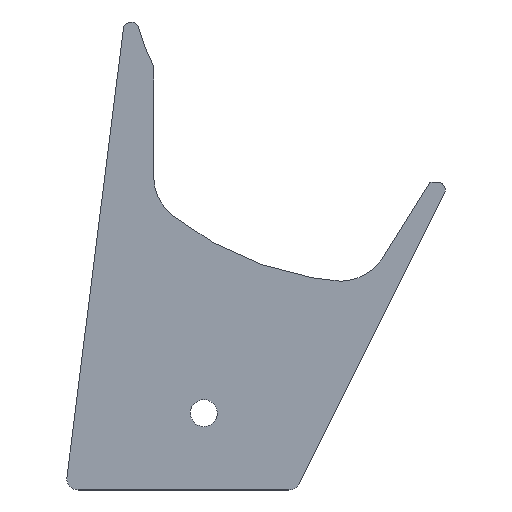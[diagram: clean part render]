
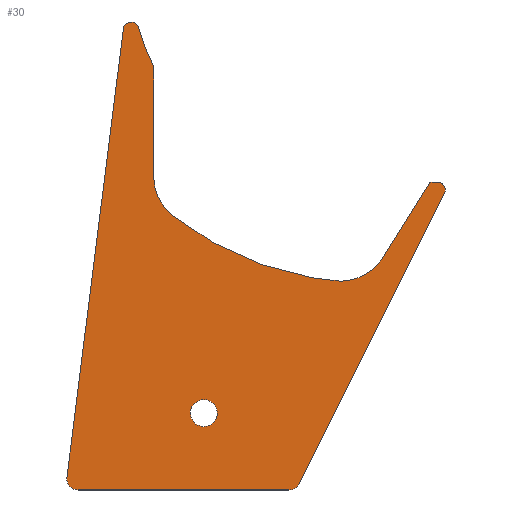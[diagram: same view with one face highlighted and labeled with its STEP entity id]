
A CAD part, top view. The second image highlights one B-rep face of the part: STEP entity #30.
In plain terms, the highlighted planar face has unit normal (0, 0, 1).
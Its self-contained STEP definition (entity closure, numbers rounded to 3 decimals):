
#15=FACE_BOUND('',#64,.T.);
#30=ADVANCED_FACE('',(#46,#15),#263,.T.);
#46=FACE_OUTER_BOUND('',#63,.T.);
#63=EDGE_LOOP('',(#132,#133,#134,#135,#136,#137,#138,#139,#140,#141,#142,
#143));
#64=EDGE_LOOP('',(#144,#145));
#132=ORIENTED_EDGE('',*,*,#152,.T.);
#133=ORIENTED_EDGE('',*,*,#156,.T.);
#134=ORIENTED_EDGE('',*,*,#159,.T.);
#135=ORIENTED_EDGE('',*,*,#162,.T.);
#136=ORIENTED_EDGE('',*,*,#165,.T.);
#137=ORIENTED_EDGE('',*,*,#168,.T.);
#138=ORIENTED_EDGE('',*,*,#171,.T.);
#139=ORIENTED_EDGE('',*,*,#174,.T.);
#140=ORIENTED_EDGE('',*,*,#177,.T.);
#141=ORIENTED_EDGE('',*,*,#180,.T.);
#142=ORIENTED_EDGE('',*,*,#183,.T.);
#143=ORIENTED_EDGE('',*,*,#185,.T.);
#144=ORIENTED_EDGE('',*,*,#188,.T.);
#145=ORIENTED_EDGE('',*,*,#191,.T.);
#152=EDGE_CURVE('',#237,#236,#194,.T.);
#156=EDGE_CURVE('',#236,#239,#198,.T.);
#159=EDGE_CURVE('',#239,#241,#201,.T.);
#162=EDGE_CURVE('',#241,#243,#204,.T.);
#165=EDGE_CURVE('',#243,#245,#207,.T.);
#168=EDGE_CURVE('',#245,#247,#210,.T.);
#171=EDGE_CURVE('',#247,#249,#213,.T.);
#174=EDGE_CURVE('',#249,#251,#216,.T.);
#177=EDGE_CURVE('',#251,#253,#219,.T.);
#180=EDGE_CURVE('',#253,#255,#222,.T.);
#183=EDGE_CURVE('',#255,#257,#225,.T.);
#185=EDGE_CURVE('',#257,#237,#227,.T.);
#188=EDGE_CURVE('',#259,#261,#230,.T.);
#191=EDGE_CURVE('',#261,#259,#233,.T.);
#194=(
BOUNDED_CURVE()
B_SPLINE_CURVE(2,(#517,#518,#519,#520,#521),.UNSPECIFIED.,.F.,.F.)
B_SPLINE_CURVE_WITH_KNOTS((3,2,3),(140.336,141.709,143.081),
 .UNSPECIFIED.)
CURVE()
GEOMETRIC_REPRESENTATION_ITEM()
RATIONAL_B_SPLINE_CURVE((1.,0.774,1.,0.774,1.))
REPRESENTATION_ITEM('')
);
#198=(
BOUNDED_CURVE()
B_SPLINE_CURVE(2,(#529,#530,#531),.UNSPECIFIED.,.F.,.F.)
B_SPLINE_CURVE_WITH_KNOTS((3,3),(143.081,201.832),
 .UNSPECIFIED.)
CURVE()
GEOMETRIC_REPRESENTATION_ITEM()
RATIONAL_B_SPLINE_CURVE((1.,1.,1.))
REPRESENTATION_ITEM('')
);
#201=(
BOUNDED_CURVE()
B_SPLINE_CURVE(2,(#537,#538,#539),.UNSPECIFIED.,.F.,.F.)
B_SPLINE_CURVE_WITH_KNOTS((3,3),(201.832,204.376),
 .UNSPECIFIED.)
CURVE()
GEOMETRIC_REPRESENTATION_ITEM()
RATIONAL_B_SPLINE_CURVE((1.,0.661,1.))
REPRESENTATION_ITEM('')
);
#204=(
BOUNDED_CURVE()
B_SPLINE_CURVE(2,(#545,#546,#547),.UNSPECIFIED.,.F.,.F.)
B_SPLINE_CURVE_WITH_KNOTS((3,3),(204.376,231.748),
 .UNSPECIFIED.)
CURVE()
GEOMETRIC_REPRESENTATION_ITEM()
RATIONAL_B_SPLINE_CURVE((1.,1.,1.))
REPRESENTATION_ITEM('')
);
#207=(
BOUNDED_CURVE()
B_SPLINE_CURVE(2,(#553,#554,#555),.UNSPECIFIED.,.F.,.F.)
B_SPLINE_CURVE_WITH_KNOTS((3,3),(231.748,233.409),
 .UNSPECIFIED.)
CURVE()
GEOMETRIC_REPRESENTATION_ITEM()
RATIONAL_B_SPLINE_CURVE((1.,0.851,1.))
REPRESENTATION_ITEM('')
);
#210=(
BOUNDED_CURVE()
B_SPLINE_CURVE(2,(#561,#562,#563),.UNSPECIFIED.,.F.,.F.)
B_SPLINE_CURVE_WITH_KNOTS((3,3),(233.409,275.585),
 .UNSPECIFIED.)
CURVE()
GEOMETRIC_REPRESENTATION_ITEM()
RATIONAL_B_SPLINE_CURVE((1.,1.,1.))
REPRESENTATION_ITEM('')
);
#213=(
BOUNDED_CURVE()
B_SPLINE_CURVE(2,(#569,#570,#571),.UNSPECIFIED.,.F.,.F.)
B_SPLINE_CURVE_WITH_KNOTS((3,3),(275.585,277.62),
 .UNSPECIFIED.)
CURVE()
GEOMETRIC_REPRESENTATION_ITEM()
RATIONAL_B_SPLINE_CURVE((1.,0.526,1.))
REPRESENTATION_ITEM('')
);
#216=(
BOUNDED_CURVE()
B_SPLINE_CURVE(2,(#577,#578,#579),.UNSPECIFIED.,.F.,.F.)
B_SPLINE_CURVE_WITH_KNOTS((3,3),(277.62,278.6),
 .UNSPECIFIED.)
CURVE()
GEOMETRIC_REPRESENTATION_ITEM()
RATIONAL_B_SPLINE_CURVE((1.,1.,1.))
REPRESENTATION_ITEM('')
);
#219=(
BOUNDED_CURVE()
B_SPLINE_CURVE(2,(#585,#586,#587),.UNSPECIFIED.,.F.,.F.)
B_SPLINE_CURVE_WITH_KNOTS((3,3),(278.6,291.618),
 .UNSPECIFIED.)
CURVE()
GEOMETRIC_REPRESENTATION_ITEM()
RATIONAL_B_SPLINE_CURVE((1.,1.,1.))
REPRESENTATION_ITEM('')
);
#222=(
BOUNDED_CURVE()
B_SPLINE_CURVE(2,(#597,#598,#599,#600,#601,#602,#603),.UNSPECIFIED.,.F.,
 .F.)
B_SPLINE_CURVE_WITH_KNOTS((3,2,2,3),(291.618,306.378,
313.985,326.05),.UNSPECIFIED.)
CURVE()
GEOMETRIC_REPRESENTATION_ITEM()
RATIONAL_B_SPLINE_CURVE((1.,0.851,1.,0.96,1.,0.899,
1.))
REPRESENTATION_ITEM('')
);
#225=(
BOUNDED_CURVE()
B_SPLINE_CURVE(2,(#609,#610,#611),.UNSPECIFIED.,.F.,.F.)
B_SPLINE_CURVE_WITH_KNOTS((3,3),(326.05,339.268),
 .UNSPECIFIED.)
CURVE()
GEOMETRIC_REPRESENTATION_ITEM()
RATIONAL_B_SPLINE_CURVE((1.,1.,1.))
REPRESENTATION_ITEM('')
);
#227=(
BOUNDED_CURVE()
B_SPLINE_CURVE(2,(#615,#616,#617),.UNSPECIFIED.,.F.,.F.)
B_SPLINE_CURVE_WITH_KNOTS((3,3),(339.268,344.712),
 .UNSPECIFIED.)
CURVE()
GEOMETRIC_REPRESENTATION_ITEM()
RATIONAL_B_SPLINE_CURVE((1.,0.995,1.))
REPRESENTATION_ITEM('')
);
#230=(
BOUNDED_CURVE()
B_SPLINE_CURVE(2,(#625,#626,#627,#628,#629),.UNSPECIFIED.,.F.,.F.)
B_SPLINE_CURVE_WITH_KNOTS((3,2,3),(344.712,347.461,350.21),
 .UNSPECIFIED.)
CURVE()
GEOMETRIC_REPRESENTATION_ITEM()
RATIONAL_B_SPLINE_CURVE((1.,0.707,1.,0.707,1.))
REPRESENTATION_ITEM('')
);
#233=(
BOUNDED_CURVE()
B_SPLINE_CURVE(2,(#637,#638,#639,#640,#641),.UNSPECIFIED.,.F.,.F.)
B_SPLINE_CURVE_WITH_KNOTS((3,2,3),(350.21,352.959,355.708),
 .UNSPECIFIED.)
CURVE()
GEOMETRIC_REPRESENTATION_ITEM()
RATIONAL_B_SPLINE_CURVE((1.,0.707,1.,0.707,1.))
REPRESENTATION_ITEM('')
);
#236=VERTEX_POINT('',#484);
#237=VERTEX_POINT('',#485);
#239=VERTEX_POINT('',#487);
#241=VERTEX_POINT('',#489);
#243=VERTEX_POINT('',#491);
#245=VERTEX_POINT('',#493);
#247=VERTEX_POINT('',#495);
#249=VERTEX_POINT('',#497);
#251=VERTEX_POINT('',#499);
#253=VERTEX_POINT('',#501);
#255=VERTEX_POINT('',#503);
#257=VERTEX_POINT('',#505);
#259=VERTEX_POINT('',#507);
#261=VERTEX_POINT('',#509);
#263=PLANE('',#367);
#367=AXIS2_PLACEMENT_3D('',#471,#372,$);
#372=DIRECTION('',(0.,0.,1.));
#471=CARTESIAN_POINT('',(-89.947,-75.107,0.5));
#484=CARTESIAN_POINT('',(-76.447,-7.522,0.5));
#485=CARTESIAN_POINT('',(-74.492,-7.378,0.5));
#487=CARTESIAN_POINT('',(-83.788,-65.813,0.5));
#489=CARTESIAN_POINT('',(-82.299,-67.5,0.5));
#491=CARTESIAN_POINT('',(-54.927,-67.5,0.5));
#493=CARTESIAN_POINT('',(-53.585,-66.671,0.5));
#495=CARTESIAN_POINT('',(-34.724,-28.947,0.5));
#497=CARTESIAN_POINT('',(-35.618,-27.5,0.5));
#499=CARTESIAN_POINT('',(-36.598,-27.5,0.5));
#501=CARTESIAN_POINT('',(-42.717,-37.291,0.5));
#503=CARTESIAN_POINT('',(-72.5,-26.739,0.5));
#505=CARTESIAN_POINT('',(-72.5,-12.49,0.5));
#507=CARTESIAN_POINT('',(-64.25,-57.5,0.5));
#509=CARTESIAN_POINT('',(-67.75,-57.5,0.5));
#517=CARTESIAN_POINT('',(-74.492,-7.378,0.5));
#518=CARTESIAN_POINT('',(-74.711,-6.589,0.5));
#519=CARTESIAN_POINT('',(-75.528,-6.649,0.5));
#520=CARTESIAN_POINT('',(-76.345,-6.709,0.5));
#521=CARTESIAN_POINT('',(-76.447,-7.522,0.5));
#529=CARTESIAN_POINT('',(-76.447,-7.522,0.5));
#530=CARTESIAN_POINT('',(-80.117,-36.667,0.5));
#531=CARTESIAN_POINT('',(-83.788,-65.813,0.5));
#537=CARTESIAN_POINT('',(-83.788,-65.813,0.5));
#538=CARTESIAN_POINT('',(-84.,-67.5,0.5));
#539=CARTESIAN_POINT('',(-82.299,-67.5,0.5));
#545=CARTESIAN_POINT('',(-82.299,-67.5,0.5));
#546=CARTESIAN_POINT('',(-68.613,-67.5,0.5));
#547=CARTESIAN_POINT('',(-54.927,-67.5,0.5));
#553=CARTESIAN_POINT('',(-54.927,-67.5,0.5));
#554=CARTESIAN_POINT('',(-54.,-67.5,0.5));
#555=CARTESIAN_POINT('',(-53.585,-66.671,0.5));
#561=CARTESIAN_POINT('',(-53.585,-66.671,0.5));
#562=CARTESIAN_POINT('',(-44.155,-47.809,0.5));
#563=CARTESIAN_POINT('',(-34.724,-28.947,0.5));
#569=CARTESIAN_POINT('',(-34.724,-28.947,0.5));
#570=CARTESIAN_POINT('',(-34.,-27.5,0.5));
#571=CARTESIAN_POINT('',(-35.618,-27.5,0.5));
#577=CARTESIAN_POINT('',(-35.618,-27.5,0.5));
#578=CARTESIAN_POINT('',(-36.108,-27.5,0.5));
#579=CARTESIAN_POINT('',(-36.598,-27.5,0.5));
#585=CARTESIAN_POINT('',(-36.598,-27.5,0.5));
#586=CARTESIAN_POINT('',(-39.658,-32.396,0.5));
#587=CARTESIAN_POINT('',(-42.717,-37.291,0.5));
#597=CARTESIAN_POINT('',(-42.717,-37.291,0.5));
#598=CARTESIAN_POINT('',(-44.847,-40.699,0.5));
#599=CARTESIAN_POINT('',(-48.847,-40.317,0.5));
#600=CARTESIAN_POINT('',(-60.672,-39.189,0.5));
#601=CARTESIAN_POINT('',(-70.015,-31.851,0.5));
#602=CARTESIAN_POINT('',(-72.5,-29.9,0.5));
#603=CARTESIAN_POINT('',(-72.5,-26.739,0.5));
#609=CARTESIAN_POINT('',(-72.5,-26.739,0.5));
#610=CARTESIAN_POINT('',(-72.5,-19.615,0.5));
#611=CARTESIAN_POINT('',(-72.5,-12.49,0.5));
#615=CARTESIAN_POINT('',(-72.5,-12.49,0.5));
#616=CARTESIAN_POINT('',(-73.752,-10.034,0.5));
#617=CARTESIAN_POINT('',(-74.492,-7.378,0.5));
#625=CARTESIAN_POINT('',(-64.25,-57.5,0.5));
#626=CARTESIAN_POINT('',(-64.25,-59.25,0.5));
#627=CARTESIAN_POINT('',(-66.,-59.25,0.5));
#628=CARTESIAN_POINT('',(-67.75,-59.25,0.5));
#629=CARTESIAN_POINT('',(-67.75,-57.5,0.5));
#637=CARTESIAN_POINT('',(-67.75,-57.5,0.5));
#638=CARTESIAN_POINT('',(-67.75,-55.75,0.5));
#639=CARTESIAN_POINT('',(-66.,-55.75,0.5));
#640=CARTESIAN_POINT('',(-64.25,-55.75,0.5));
#641=CARTESIAN_POINT('',(-64.25,-57.5,0.5));
